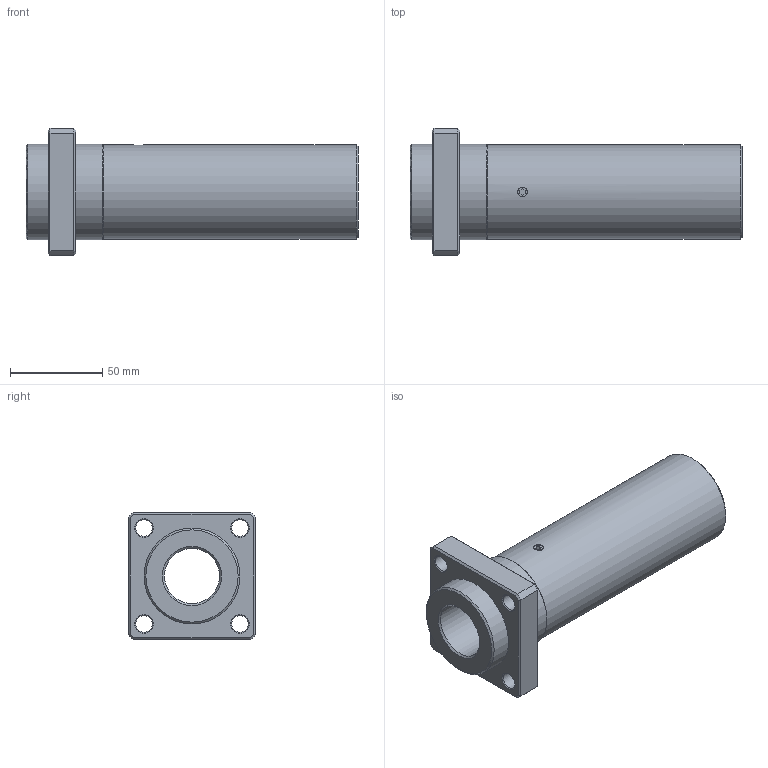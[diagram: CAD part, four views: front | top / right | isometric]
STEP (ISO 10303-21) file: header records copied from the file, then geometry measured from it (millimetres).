
FILE_DESCRIPTION(('STEP AP203'),'1');
FILE_NAME('//192.168.1.1/share/s-4 技術開発/s-4-14_個人別フォルダ/橋詰/09_CAD_DATA/3D/HP用/3Ｄモデル/LCF/LCF-BL/LCF-30BLUU.step','2021-12-09T05:13:29',(' '),(' '),'Spatial InterOp 3D',' ',' ');
FILE_SCHEMA(('CONFIG_CONTROL_DESIGN'));
Length unit declared in the file: millimetre
Products named in the file (2): 1; 2
Bounding box: 180 x 69 x 69 mm (x, y, z)
Volume: 278712.6 mm3; surface area: 56350.7 mm2
Topology: 2 solids, 2 shells, 62 faces, 143 edges, 86 vertices
Faces by surface type: plane 25, cone 23, cylinder 14
Full cylindrical faces by diameter (mm): 5.25 x1, 6 x1, 9 x4, 30 x1, 51 x1, 52 x2
Entity records: 1772 total; most frequent: CARTESIAN_POINT 422, DIRECTION 266, ORIENTED_EDGE 216, AXIS2_PLACEMENT_3D 112, EDGE_CURVE 108, EDGE_LOOP 102, VERTEX_POINT 78, FACE_OUTER_BOUND 72
